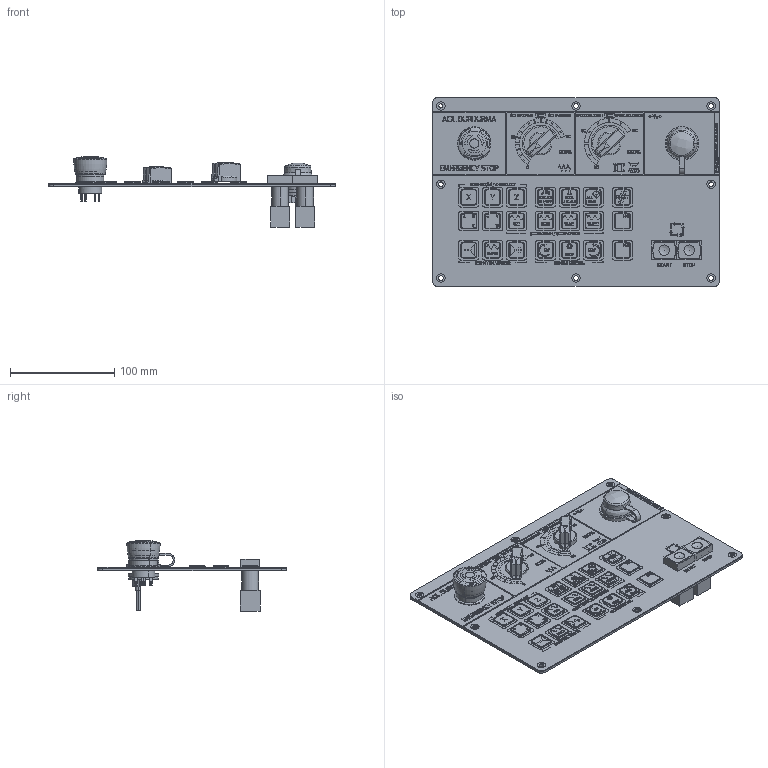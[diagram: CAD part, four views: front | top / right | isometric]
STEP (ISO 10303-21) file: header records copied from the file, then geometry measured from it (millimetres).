
FILE_DESCRIPTION (( 'STEP AP203' ), '1' );
FILE_NAME ('MP2-21BTA_makinaOperasyonPaneli.STEP', '2021-04-10T08:30:34', ( '' ), ( '' ), 'SwSTEP 2.0', 'SolidWorks 2019', '' );
FILE_SCHEMA (( 'CONFIG_CONTROL_DESIGN' ));
Length unit declared in the file: millimetre
Products named in the file (21): ROTARYswitchKAFASI; 10; MP2-21BTA_part01membrane; 5; MP2-21BTA_part02dkpSac; 2; Pulser18MP_Part003_G01overrideCIZIM; 7; scheneider-XB6-Y009kirmiziBUTON; 22mmACILstop21; 4; MP2-21BTA_ASM01membranEtiket; 6; Pulser18MP_Part004_SSOoverrideCIZIM; 1; MP2-21BTA_makinaOperasyonPaneli; 8; scheneider-XB6-Y009yesilBUTON; 9; 3; eaton-M222-USB_D‚faut
Assembly tree (21 placements, depth 3):
  MP2-21BTA_makinaOperasyonPaneli
    MP2-21BTA_part02dkpSac
    MP2-21BTA_ASM01membranEtiket
      MP2-21BTA_part01membrane
      Pulser18MP_Part004_SSOoverrideCIZIM
      Pulser18MP_Part003_G01overrideCIZIM
    eaton-M222-USB_D‚faut
    22mmACILstop21
      1
      2
      3
      4
      5
      6
      7
      8
      9
      10
    ROTARYswitchKAFASI  x2
    scheneider-XB6-Y009yesilBUTON
    scheneider-XB6-Y009kirmiziBUTON
Bounding box: 275 x 181 x 67.54 mm (x, y, z)
Volume: 225808.7 mm3; surface area: 233711.9 mm2
Topology: 110 solids, 110 shells, 6319 faces, 16704 edges, 11064 vertices
Faces by surface type: plane 4006, bspline 1361, cylinder 831, torus 94, cone 25, sphere 2
Entity records: 259578 total; most frequent: CARTESIAN_POINT 109247, ORIENTED_EDGE 33178, DIRECTION 25388, EDGE_CURVE 16589, VECTOR 11838, LINE 11838, VERTEX_POINT 10988, EDGE_LOOP 7001
